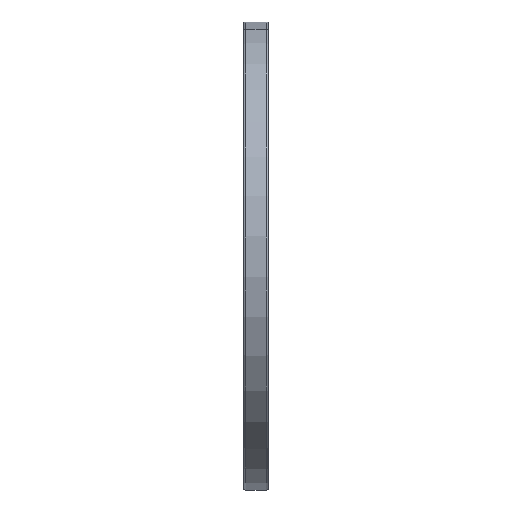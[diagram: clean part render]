
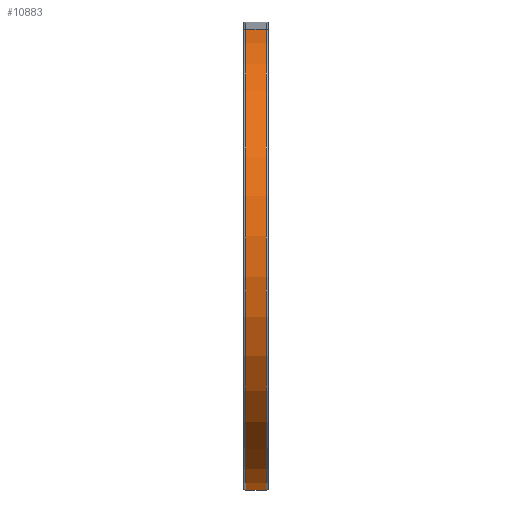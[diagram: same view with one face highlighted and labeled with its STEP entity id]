
A CAD part, left-side view. The second image highlights one B-rep face of the part: STEP entity #10883.
In plain terms, the highlighted cylindrical face has radius 114.48 mm (diameter 228.96 mm), a partial arc.
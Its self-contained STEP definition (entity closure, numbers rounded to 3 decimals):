
#1935 = DIRECTION ( 'NONE',  ( -0.261, 0., 0.965 ) ) ;
#2192 = DIRECTION ( 'NONE',  ( -0.261, 0., 0.965 ) ) ;
#2633 = CARTESIAN_POINT ( 'NONE',  ( 29.83, 0., -110.525 ) ) ;
#3217 = DIRECTION ( 'NONE',  ( 0., -1., 0. ) ) ;
#3615 = CARTESIAN_POINT ( 'NONE',  ( 29.83, 1., -110.525 ) ) ;
#6506 = VECTOR ( 'NONE', #3217, 1000. ) ;
#6595 = EDGE_CURVE ( 'NONE', #19452, #22032, #12010, .T. ) ;
#6783 = LINE ( 'NONE', #10459, #6506 ) ;
#8003 = VERTEX_POINT ( 'NONE', #15285 ) ;
#8237 = AXIS2_PLACEMENT_3D ( 'NONE', #21552, #10961, #1935 ) ;
#9153 = CARTESIAN_POINT ( 'NONE',  ( -29.83, 11., 110.525 ) ) ;
#9990 = DIRECTION ( 'NONE',  ( 0., -1., 0. ) ) ;
#10076 = EDGE_CURVE ( 'NONE', #19452, #8003, #6783, .T. ) ;
#10459 = CARTESIAN_POINT ( 'NONE',  ( -29.83, 0., 110.525 ) ) ;
#10792 = ORIENTED_EDGE ( 'NONE', *, *, #17090, .T. ) ;
#10872 = FACE_OUTER_BOUND ( 'NONE', #20809, .T. ) ;
#10883 = ADVANCED_FACE ( 'NONE', ( #10872 ), #18013, .T. ) ;
#10961 = DIRECTION ( 'NONE',  ( 0., -1., 0. ) ) ;
#11441 = LINE ( 'NONE', #2633, #12916 ) ;
#12010 = CIRCLE ( 'NONE', #8237, 114.48 ) ;
#12639 = DIRECTION ( 'NONE',  ( 0., -1., 0. ) ) ;
#12916 = VECTOR ( 'NONE', #9990, 1000. ) ;
#14333 = DIRECTION ( 'NONE',  ( 0., -1., 0. ) ) ;
#14571 = CARTESIAN_POINT ( 'NONE',  ( 0., 0., 0. ) ) ;
#14830 = ORIENTED_EDGE ( 'NONE', *, *, #6595, .T. ) ;
#15285 = CARTESIAN_POINT ( 'NONE',  ( -29.83, 1., 110.525 ) ) ;
#17090 = EDGE_CURVE ( 'NONE', #22032, #21218, #11441, .T. ) ;
#17377 = AXIS2_PLACEMENT_3D ( 'NONE', #18441, #12639, #19885 ) ;
#17482 = ORIENTED_EDGE ( 'NONE', *, *, #21667, .F. ) ;
#18013 = CYLINDRICAL_SURFACE ( 'NONE', #21349, 114.48 ) ;
#18383 = ORIENTED_EDGE ( 'NONE', *, *, #10076, .F. ) ;
#18441 = CARTESIAN_POINT ( 'NONE',  ( 0., 1., 0. ) ) ;
#19452 = VERTEX_POINT ( 'NONE', #9153 ) ;
#19885 = DIRECTION ( 'NONE',  ( -0.261, 0., 0.965 ) ) ;
#20809 = EDGE_LOOP ( 'NONE', ( #14830, #10792, #17482, #18383 ) ) ;
#21172 = CIRCLE ( 'NONE', #17377, 114.48 ) ;
#21218 = VERTEX_POINT ( 'NONE', #3615 ) ;
#21349 = AXIS2_PLACEMENT_3D ( 'NONE', #14571, #14333, #2192 ) ;
#21552 = CARTESIAN_POINT ( 'NONE',  ( 0., 11., 0. ) ) ;
#21667 = EDGE_CURVE ( 'NONE', #8003, #21218, #21172, .T. ) ;
#22032 = VERTEX_POINT ( 'NONE', #22292 ) ;
#22292 = CARTESIAN_POINT ( 'NONE',  ( 29.83, 11., -110.525 ) ) ;
